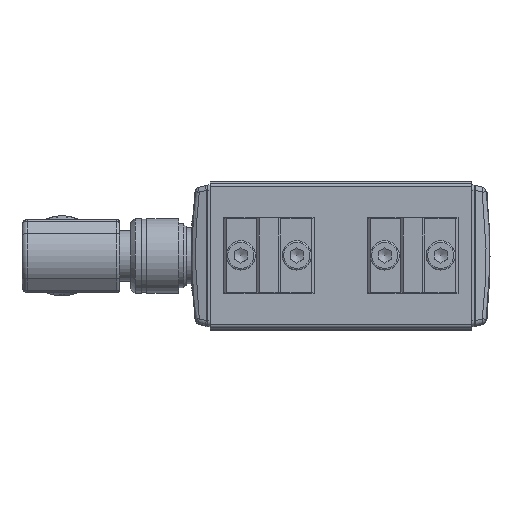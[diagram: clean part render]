
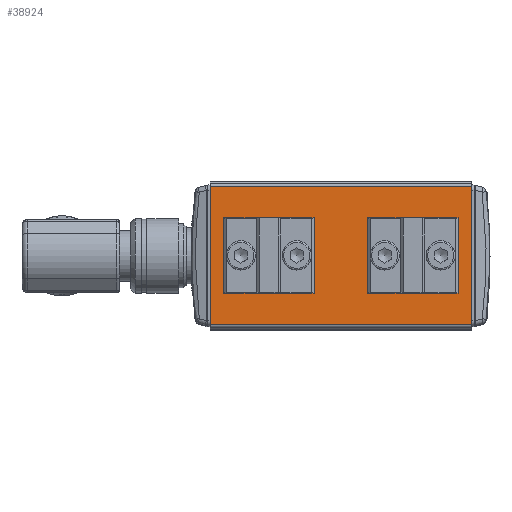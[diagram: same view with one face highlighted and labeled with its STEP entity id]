
A CAD part, top view. The second image highlights one B-rep face of the part: STEP entity #38924.
In plain terms, the highlighted planar face has unit normal (0, 0, 1).
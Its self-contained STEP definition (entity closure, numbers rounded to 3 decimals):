
#6717=FACE_OUTER_BOUND('',#8893,.T.);
#8893=EDGE_LOOP('',(#27481,#27482,#27483,#27484));
#11262=LINE('',#58833,#13997);
#11288=LINE('',#58914,#14023);
#11314=LINE('',#58993,#14049);
#11315=LINE('',#58994,#14050);
#13997=VECTOR('',#46764,10.);
#14023=VECTOR('',#46820,10.);
#14049=VECTOR('',#46876,10.);
#14050=VECTOR('',#46877,10.);
#16947=VERTEX_POINT('',#58831);
#16948=VERTEX_POINT('',#58832);
#16987=VERTEX_POINT('',#58912);
#16988=VERTEX_POINT('',#58913);
#20999=EDGE_CURVE('',#16947,#16948,#11262,.T.);
#21039=EDGE_CURVE('',#16987,#16988,#11288,.T.);
#21079=EDGE_CURVE('',#16988,#16947,#11314,.T.);
#21080=EDGE_CURVE('',#16948,#16987,#11315,.T.);
#27481=ORIENTED_EDGE('',*,*,#20999,.F.);
#27482=ORIENTED_EDGE('',*,*,#21079,.F.);
#27483=ORIENTED_EDGE('',*,*,#21039,.F.);
#27484=ORIENTED_EDGE('',*,*,#21080,.F.);
#37716=PLANE('',#41602);
#38924=ADVANCED_FACE('',(#6717),#37716,.T.);
#41602=AXIS2_PLACEMENT_3D('',#58992,#46874,#46875);
#46764=DIRECTION('',(0.,1.,0.));
#46820=DIRECTION('',(0.,-1.,0.));
#46874=DIRECTION('center_axis',(0.,0.,
1.));
#46875=DIRECTION('ref_axis',(0.,-1.,0.));
#46876=DIRECTION('',(-1.,0.,0.));
#46877=DIRECTION('',(1.,0.,0.));
#58831=CARTESIAN_POINT('',(-24.5,-13.,76.5));
#58832=CARTESIAN_POINT('',(-24.5,13.,76.5));
#58833=CARTESIAN_POINT('',(-24.5,13.5,76.5));
#58912=CARTESIAN_POINT('',(24.5,13.,76.5));
#58913=CARTESIAN_POINT('',(24.5,-13.,76.5));
#58914=CARTESIAN_POINT('',(24.5,13.5,76.5));
#58992=CARTESIAN_POINT('Origin',(0.,13.5,76.5));
#58993=CARTESIAN_POINT('',(0.,-13.,76.5));
#58994=CARTESIAN_POINT('',(0.,13.,76.5));
